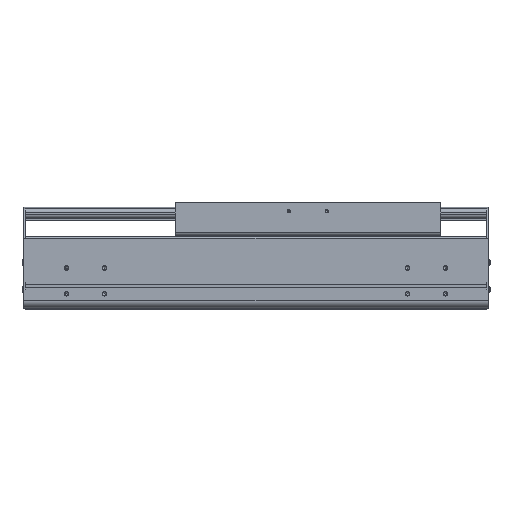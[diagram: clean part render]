
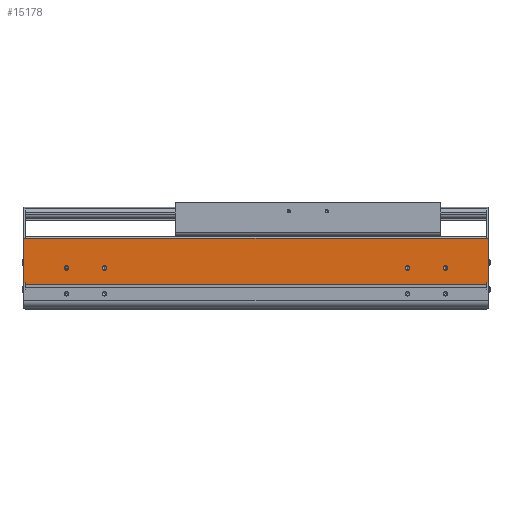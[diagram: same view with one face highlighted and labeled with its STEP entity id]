
A CAD part, top view. The second image highlights one B-rep face of the part: STEP entity #15178.
In plain terms, the highlighted planar face has unit normal (0, 0, 1).
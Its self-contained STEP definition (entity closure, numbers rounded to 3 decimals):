
#1622=DIRECTION('',(0.,-1.,0.));
#1623=VECTOR('',#1622,2.55);
#1624=CARTESIAN_POINT('',(0.,34.65,107.));
#1625=LINE('',#1624,#1623);
#2105=DIRECTION('',(1.,0.,0.));
#2106=VECTOR('',#2105,2.);
#2107=CARTESIAN_POINT('',(-611.,34.65,107.));
#2108=LINE('',#2107,#2106);
#2109=CARTESIAN_POINT('',(-54.5,54.,107.));
#2110=DIRECTION('',(0.,0.,-1.));
#2111=DIRECTION('',(1.,0.,0.));
#2112=AXIS2_PLACEMENT_3D('',#2109,#2110,#2111);
#2114=CARTESIAN_POINT('',(-54.5,54.,107.));
#2115=DIRECTION('',(0.,0.,-1.));
#2116=DIRECTION('',(-1.,0.,0.));
#2117=AXIS2_PLACEMENT_3D('',#2114,#2115,#2116);
#2119=CARTESIAN_POINT('',(-104.5,54.,107.));
#2120=DIRECTION('',(0.,0.,-1.));
#2121=DIRECTION('',(1.,0.,0.));
#2122=AXIS2_PLACEMENT_3D('',#2119,#2120,#2121);
#2124=CARTESIAN_POINT('',(-104.5,54.,107.));
#2125=DIRECTION('',(0.,0.,-1.));
#2126=DIRECTION('',(-1.,0.,0.));
#2127=AXIS2_PLACEMENT_3D('',#2124,#2125,#2126);
#2129=CARTESIAN_POINT('',(-554.5,54.,107.));
#2130=DIRECTION('',(0.,0.,-1.));
#2131=DIRECTION('',(1.,0.,0.));
#2132=AXIS2_PLACEMENT_3D('',#2129,#2130,#2131);
#2134=CARTESIAN_POINT('',(-554.5,54.,107.));
#2135=DIRECTION('',(0.,0.,-1.));
#2136=DIRECTION('',(-1.,0.,0.));
#2137=AXIS2_PLACEMENT_3D('',#2134,#2135,#2136);
#2139=CARTESIAN_POINT('',(-504.5,54.,107.));
#2140=DIRECTION('',(0.,0.,-1.));
#2141=DIRECTION('',(1.,0.,0.));
#2142=AXIS2_PLACEMENT_3D('',#2139,#2140,#2141);
#2144=CARTESIAN_POINT('',(-504.5,54.,107.));
#2145=DIRECTION('',(0.,0.,-1.));
#2146=DIRECTION('',(-1.,0.,0.));
#2147=AXIS2_PLACEMENT_3D('',#2144,#2145,#2146);
#2149=DIRECTION('',(0.,-1.,0.));
#2150=VECTOR('',#2149,2.55);
#2151=CARTESIAN_POINT('',(-609.,34.65,107.));
#2152=LINE('',#2151,#2150);
#2153=DIRECTION('',(0.,-1.,0.));
#2154=VECTOR('',#2153,58.85);
#2155=CARTESIAN_POINT('',(-611.,93.5,107.));
#2156=LINE('',#2155,#2154);
#2157=DIRECTION('',(0.,1.,0.));
#2158=VECTOR('',#2157,58.85);
#2159=CARTESIAN_POINT('',(2.,34.65,107.));
#2160=LINE('',#2159,#2158);
#2161=DIRECTION('',(1.,0.,0.));
#2162=VECTOR('',#2161,609.);
#2163=CARTESIAN_POINT('',(-609.,32.1,107.));
#2164=LINE('',#2163,#2162);
#2269=DIRECTION('',(-1.,0.,0.));
#2270=VECTOR('',#2269,613.);
#2271=CARTESIAN_POINT('',(2.,93.5,107.));
#2272=LINE('',#2271,#2270);
#8619=DIRECTION('',(1.,0.,0.));
#8620=VECTOR('',#8619,2.);
#8621=CARTESIAN_POINT('',(0.,34.65,107.));
#8622=LINE('',#8621,#8620);
#9869=CARTESIAN_POINT('',(-611.,34.65,107.));
#9870=VERTEX_POINT('',#9869);
#9871=CARTESIAN_POINT('',(-611.,93.5,107.));
#9872=VERTEX_POINT('',#9871);
#10101=CARTESIAN_POINT('',(-609.,32.1,107.));
#10102=VERTEX_POINT('',#10101);
#10443=CARTESIAN_POINT('',(0.,32.1,107.));
#10444=VERTEX_POINT('',#10443);
#10445=CARTESIAN_POINT('',(-52.,54.,107.));
#10446=CARTESIAN_POINT('',(-57.,54.,107.));
#10447=VERTEX_POINT('',#10445);
#10448=VERTEX_POINT('',#10446);
#10449=CARTESIAN_POINT('',(-102.,54.,107.));
#10450=CARTESIAN_POINT('',(-107.,54.,107.));
#10451=VERTEX_POINT('',#10449);
#10452=VERTEX_POINT('',#10450);
#10453=CARTESIAN_POINT('',(-552.,54.,107.));
#10454=CARTESIAN_POINT('',(-557.,54.,107.));
#10455=VERTEX_POINT('',#10453);
#10456=VERTEX_POINT('',#10454);
#10457=CARTESIAN_POINT('',(-502.,54.,107.));
#10458=CARTESIAN_POINT('',(-507.,54.,107.));
#10459=VERTEX_POINT('',#10457);
#10460=VERTEX_POINT('',#10458);
#11368=CARTESIAN_POINT('',(2.,34.65,107.));
#11369=VERTEX_POINT('',#11368);
#11370=CARTESIAN_POINT('',(2.,93.5,107.));
#11371=VERTEX_POINT('',#11370);
#11714=CARTESIAN_POINT('',(0.,34.65,107.));
#11715=VERTEX_POINT('',#11714);
#11902=CARTESIAN_POINT('',(-609.,34.65,107.));
#11903=VERTEX_POINT('',#11902);
#15136=CARTESIAN_POINT('',(-304.5,62.8,107.));
#15137=DIRECTION('',(0.,0.,1.));
#15138=DIRECTION('',(0.,-1.,0.));
#15139=AXIS2_PLACEMENT_3D('',#15136,#15137,#15138);
#15140=PLANE('',#15139);
#15141=ORIENTED_EDGE('',*,*,#13389,.F.);
#15142=ORIENTED_EDGE('',*,*,#15131,.F.);
#15143=ORIENTED_EDGE('',*,*,#14018,.F.);
#15145=ORIENTED_EDGE('',*,*,#15144,.F.);
#15146=ORIENTED_EDGE('',*,*,#13127,.F.);
#15148=ORIENTED_EDGE('',*,*,#15147,.F.);
#15149=ORIENTED_EDGE('',*,*,#14738,.T.);
#15151=ORIENTED_EDGE('',*,*,#15150,.F.);
#15152=EDGE_LOOP('',(#15141,#15142,#15143,#15145,#15146,#15148,#15149,#15151));
#15153=FACE_OUTER_BOUND('',#15152,.F.);
#15155=ORIENTED_EDGE('',*,*,#15154,.F.);
#15157=ORIENTED_EDGE('',*,*,#15156,.F.);
#15158=EDGE_LOOP('',(#15155,#15157));
#15159=FACE_BOUND('',#15158,.F.);
#15161=ORIENTED_EDGE('',*,*,#15160,.F.);
#15163=ORIENTED_EDGE('',*,*,#15162,.F.);
#15164=EDGE_LOOP('',(#15161,#15163));
#15165=FACE_BOUND('',#15164,.F.);
#15167=ORIENTED_EDGE('',*,*,#15166,.F.);
#15169=ORIENTED_EDGE('',*,*,#15168,.F.);
#15170=EDGE_LOOP('',(#15167,#15169));
#15171=FACE_BOUND('',#15170,.F.);
#15173=ORIENTED_EDGE('',*,*,#15172,.F.);
#15175=ORIENTED_EDGE('',*,*,#15174,.F.);
#15176=EDGE_LOOP('',(#15173,#15175));
#15177=FACE_BOUND('',#15176,.F.);
#15178=ADVANCED_FACE('',(#15153,#15159,#15165,#15171,#15177),#15140,.T.);
#2113=CIRCLE('',#2112,2.5);
#2118=CIRCLE('',#2117,2.5);
#2123=CIRCLE('',#2122,2.5);
#2128=CIRCLE('',#2127,2.5);
#2133=CIRCLE('',#2132,2.5);
#2138=CIRCLE('',#2137,2.5);
#2143=CIRCLE('',#2142,2.5);
#2148=CIRCLE('',#2147,2.5);
#13127=EDGE_CURVE('',#11369,#11371,#2160,.T.);
#13389=EDGE_CURVE('',#11903,#10102,#2152,.T.);
#14018=EDGE_CURVE('',#9872,#9870,#2156,.T.);
#14738=EDGE_CURVE('',#11715,#10444,#1625,.T.);
#15131=EDGE_CURVE('',#9870,#11903,#2108,.T.);
#15144=EDGE_CURVE('',#11371,#9872,#2272,.T.);
#15147=EDGE_CURVE('',#11715,#11369,#8622,.T.);
#15150=EDGE_CURVE('',#10102,#10444,#2164,.T.);
#15154=EDGE_CURVE('',#10451,#10452,#2123,.T.);
#15156=EDGE_CURVE('',#10452,#10451,#2128,.T.);
#15160=EDGE_CURVE('',#10455,#10456,#2133,.T.);
#15162=EDGE_CURVE('',#10456,#10455,#2138,.T.);
#15166=EDGE_CURVE('',#10459,#10460,#2143,.T.);
#15168=EDGE_CURVE('',#10460,#10459,#2148,.T.);
#15172=EDGE_CURVE('',#10447,#10448,#2113,.T.);
#15174=EDGE_CURVE('',#10448,#10447,#2118,.T.);
